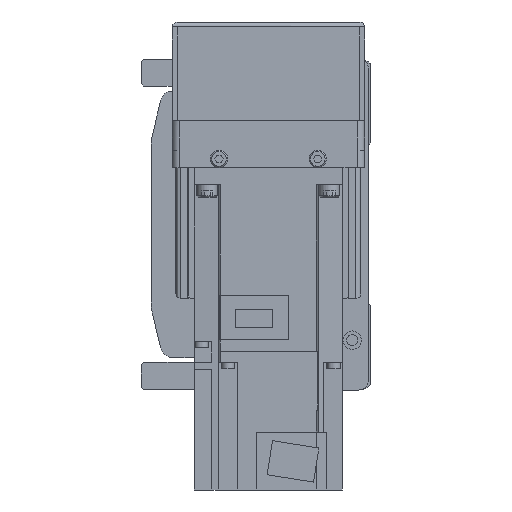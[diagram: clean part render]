
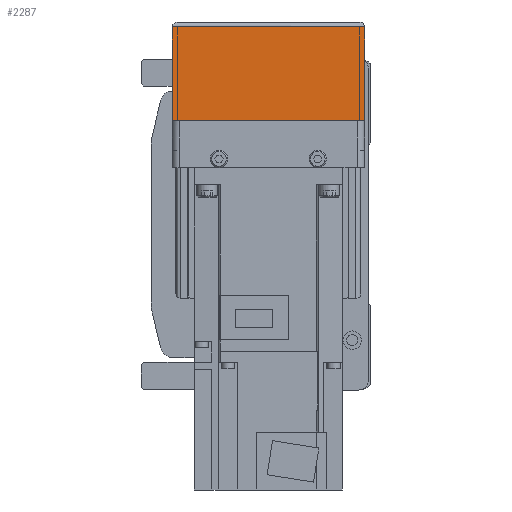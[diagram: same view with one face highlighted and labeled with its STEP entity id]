
A CAD part, left-side view. The second image highlights one B-rep face of the part: STEP entity #2287.
In plain terms, the highlighted planar face has unit normal (-1, 0, 0).
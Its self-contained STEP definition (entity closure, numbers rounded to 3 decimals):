
#2287 = ADVANCED_FACE( '', ( #5086 ), #5087, .F. );
#5086 = FACE_OUTER_BOUND( '', #8404, .T. );
#5087 = PLANE( '', #8405 );
#8404 = EDGE_LOOP( '', ( #14728, #14729, #14730, #14731 ) );
#8405 = AXIS2_PLACEMENT_3D( '', #14732, #14733, #14734 );
#14728 = ORIENTED_EDGE( '', *, *, #19371, .F. );
#14729 = ORIENTED_EDGE( '', *, *, #21336, .F. );
#14730 = ORIENTED_EDGE( '', *, *, #21337, .T. );
#14731 = ORIENTED_EDGE( '', *, *, #21338, .F. );
#14732 = CARTESIAN_POINT( '', ( -158., 36., 7. ) );
#14733 = DIRECTION( '', ( 1., 0., 0. ) );
#14734 = DIRECTION( '', ( 0., 0., -1. ) );
#19371 = EDGE_CURVE( '', #23267, #23269, #23270, .T. );
#21336 = EDGE_CURVE( '', #25336, #23267, #26329, .T. );
#21337 = EDGE_CURVE( '', #25336, #26330, #26331, .T. );
#21338 = EDGE_CURVE( '', #23269, #26330, #26332, .T. );
#23267 = VERTEX_POINT( '', #28879 );
#23269 = VERTEX_POINT( '', #28882 );
#23270 = LINE( '', #28883, #28884 );
#25336 = VERTEX_POINT( '', #31904 );
#26329 = LINE( '', #33467, #33468 );
#26330 = VERTEX_POINT( '', #33469 );
#26331 = LINE( '', #33470, #33471 );
#26332 = LINE( '', #33472, #33473 );
#28879 = CARTESIAN_POINT( '', ( -158., 39., -12.1 ) );
#28882 = CARTESIAN_POINT( '', ( -158., -39., -12.1 ) );
#28883 = CARTESIAN_POINT( '', ( -158., 50., -12.1 ) );
#28884 = VECTOR( '', #35867, 1000. );
#31904 = CARTESIAN_POINT( '', ( -158., 39., -50. ) );
#33467 = CARTESIAN_POINT( '', ( -158., 39., -50. ) );
#33468 = VECTOR( '', #38271, 1000. );
#33469 = CARTESIAN_POINT( '', ( -158., -39., -50. ) );
#33470 = CARTESIAN_POINT( '', ( -158., 40., -50. ) );
#33471 = VECTOR( '', #38272, 1000. );
#33472 = CARTESIAN_POINT( '', ( -158., -39., -12.1 ) );
#33473 = VECTOR( '', #38273, 1000. );
#35867 = DIRECTION( '', ( 0., -1., 0. ) );
#38271 = DIRECTION( '', ( 0., 0., 1. ) );
#38272 = DIRECTION( '', ( 0., -1., 0. ) );
#38273 = DIRECTION( '', ( 0., 0., -1. ) );
